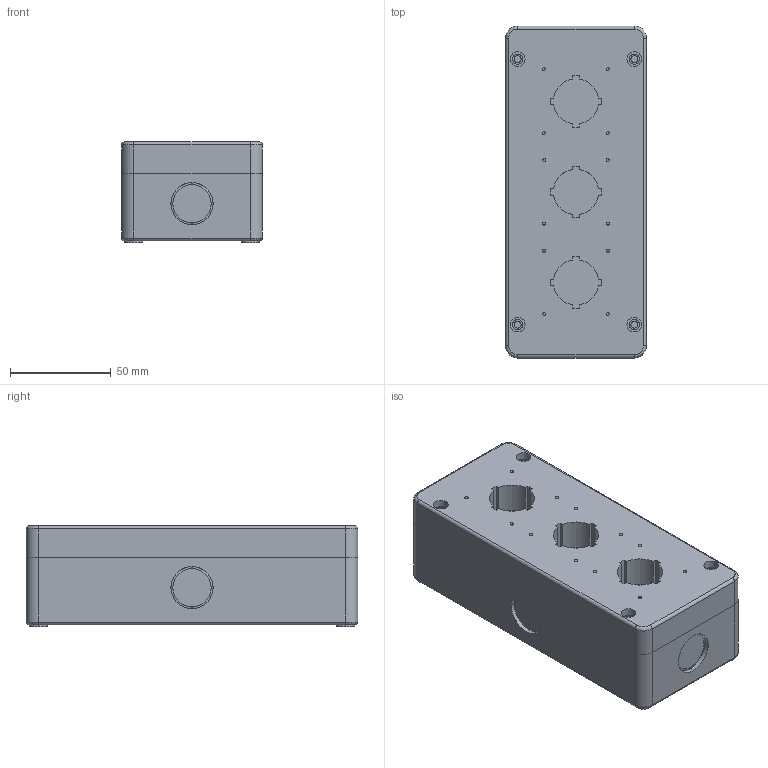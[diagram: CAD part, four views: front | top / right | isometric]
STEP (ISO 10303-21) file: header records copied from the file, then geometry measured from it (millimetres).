
FILE_DESCRIPTION (( 'STEP AP203' ), '1' );
FILE_NAME ('BG3.STEP', '2014-03-24T05:22:41', ( 'edv' ), ( '' ), 'SwSTEP 2.0', 'SolidWorks 2014', '' );
FILE_SCHEMA (( 'CONFIG_CONTROL_DESIGN' ));
Length unit declared in the file: millimetre
Products named in the file (3): Unterteil_BG3_Dummie; Deckel_BG3_Dummie; BG3
Assembly tree (2 placements, depth 2):
  BG3
    Unterteil_BG3_Dummie
    Deckel_BG3_Dummie
Bounding box: 70 x 165 x 50.6 mm (x, y, z)
Volume: 536797 mm3; surface area: 75332.2 mm2
Topology: 2 solids, 2 shells, 229 faces, 544 edges, 352 vertices
Faces by surface type: cylinder 116, plane 85, cone 20, bspline 8
Entity records: 7295 total; most frequent: CARTESIAN_POINT 1556, DIRECTION 1184, ORIENTED_EDGE 1088, EDGE_CURVE 544, AXIS2_PLACEMENT_3D 464, VERTEX_POINT 352, EDGE_LOOP 284, LINE 256
